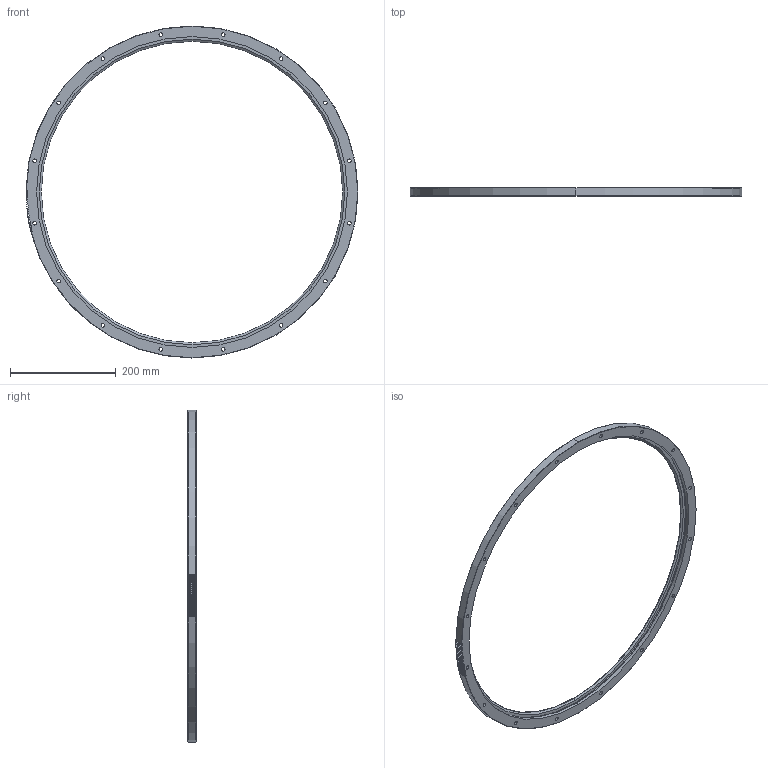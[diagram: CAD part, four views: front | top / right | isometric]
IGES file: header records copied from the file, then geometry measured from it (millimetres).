
Start section: 3D InterOp IGES (v. 2020 1.0.1), Spatial Corp. Copyright (c) 1999-2017.
Global section: file name: rim_627_r360_p.igs; native system: Spatial Corp.; preprocessor: 3D InterOp ACIS/IGES; author: TraceParts; organization: TraceParts S.A.; date: 20220624.063209; units: millimetre
Bounding box: 627.5 x 15.5 x 627.5 mm (x, y, z)
Surface area: 168497.4 mm2 (no closed solid volume)
Topology: 0 solids, 0 shells, 247 faces, 1342 edges, 1342 vertices
Faces by surface type: revolution 125, extrusion 122
